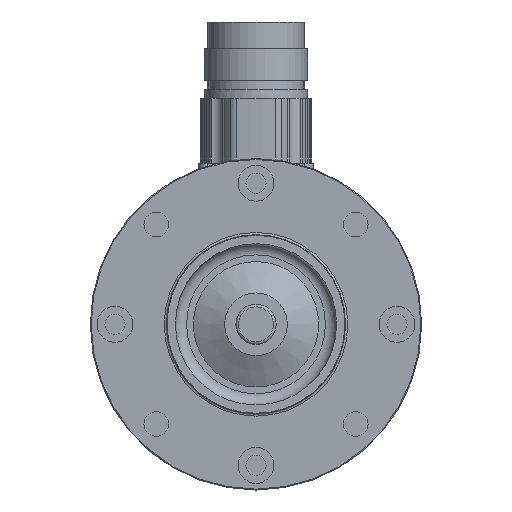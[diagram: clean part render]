
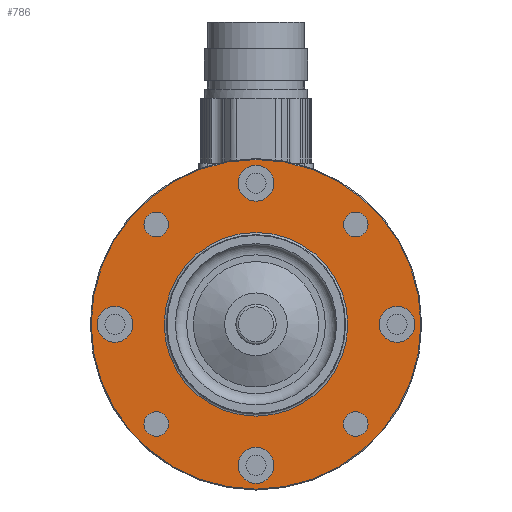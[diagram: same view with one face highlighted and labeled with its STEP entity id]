
A CAD part, front view. The second image highlights one B-rep face of the part: STEP entity #786.
In plain terms, the highlighted planar face has unit normal (0, -1, 0).
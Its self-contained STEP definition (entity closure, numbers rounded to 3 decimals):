
#361=PLANE('',#4778);
#463=FACE_BOUND('',#1474,.T.);
#464=FACE_BOUND('',#1475,.T.);
#465=FACE_BOUND('',#1476,.T.);
#466=FACE_BOUND('',#1477,.T.);
#467=FACE_BOUND('',#1478,.T.);
#468=FACE_BOUND('',#1479,.T.);
#469=FACE_BOUND('',#1480,.T.);
#470=FACE_BOUND('',#1481,.T.);
#471=FACE_BOUND('',#1483,.T.);
#786=ADVANCED_FACE('',(#463,#464,#465,#466,#467,#468,#469,#470,#1258,#471),
#361,.T.);
#1258=FACE_OUTER_BOUND('',#1482,.T.);
#1474=EDGE_LOOP('',(#2403));
#1475=EDGE_LOOP('',(#2404));
#1476=EDGE_LOOP('',(#2405));
#1477=EDGE_LOOP('',(#2406));
#1478=EDGE_LOOP('',(#2407));
#1479=EDGE_LOOP('',(#2408));
#1480=EDGE_LOOP('',(#2409));
#1481=EDGE_LOOP('',(#2410));
#1482=EDGE_LOOP('',(#2411));
#1483=EDGE_LOOP('',(#2412));
#2013=CIRCLE('',#4768,4.);
#2014=CIRCLE('',#4769,4.);
#2015=CIRCLE('',#4770,4.);
#2016=CIRCLE('',#4771,4.);
#2017=CIRCLE('',#4772,2.75);
#2018=CIRCLE('',#4773,2.75);
#2019=CIRCLE('',#4774,2.75);
#2020=CIRCLE('',#4775,2.75);
#2021=CIRCLE('',#4776,36.8);
#2022=CIRCLE('',#4777,20.5);
#2403=ORIENTED_EDGE('',*,*,#3905,.T.);
#2404=ORIENTED_EDGE('',*,*,#3906,.T.);
#2405=ORIENTED_EDGE('',*,*,#3907,.T.);
#2406=ORIENTED_EDGE('',*,*,#3908,.T.);
#2407=ORIENTED_EDGE('',*,*,#3909,.T.);
#2408=ORIENTED_EDGE('',*,*,#3910,.T.);
#2409=ORIENTED_EDGE('',*,*,#3911,.T.);
#2410=ORIENTED_EDGE('',*,*,#3912,.T.);
#2411=ORIENTED_EDGE('',*,*,#3913,.T.);
#2412=ORIENTED_EDGE('',*,*,#3914,.T.);
#3475=VERTEX_POINT('',#7057);
#3476=VERTEX_POINT('',#7059);
#3477=VERTEX_POINT('',#7061);
#3478=VERTEX_POINT('',#7063);
#3479=VERTEX_POINT('',#7065);
#3480=VERTEX_POINT('',#7067);
#3481=VERTEX_POINT('',#7069);
#3482=VERTEX_POINT('',#7071);
#3483=VERTEX_POINT('',#7073);
#3484=VERTEX_POINT('',#7075);
#3905=EDGE_CURVE('',#3475,#3475,#2013,.T.);
#3906=EDGE_CURVE('',#3476,#3476,#2014,.T.);
#3907=EDGE_CURVE('',#3477,#3477,#2015,.T.);
#3908=EDGE_CURVE('',#3478,#3478,#2016,.T.);
#3909=EDGE_CURVE('',#3479,#3479,#2017,.T.);
#3910=EDGE_CURVE('',#3480,#3480,#2018,.T.);
#3911=EDGE_CURVE('',#3481,#3481,#2019,.T.);
#3912=EDGE_CURVE('',#3482,#3482,#2020,.T.);
#3913=EDGE_CURVE('',#3483,#3483,#2021,.T.);
#3914=EDGE_CURVE('',#3484,#3484,#2022,.T.);
#4768=AXIS2_PLACEMENT_3D('',#7056,#5499,#5500);
#4769=AXIS2_PLACEMENT_3D('',#7058,#5501,#5502);
#4770=AXIS2_PLACEMENT_3D('',#7060,#5503,#5504);
#4771=AXIS2_PLACEMENT_3D('',#7062,#5505,#5506);
#4772=AXIS2_PLACEMENT_3D('',#7064,#5507,#5508);
#4773=AXIS2_PLACEMENT_3D('',#7066,#5509,#5510);
#4774=AXIS2_PLACEMENT_3D('',#7068,#5511,#5512);
#4775=AXIS2_PLACEMENT_3D('',#7070,#5513,#5514);
#4776=AXIS2_PLACEMENT_3D('',#7072,#5515,#5516);
#4777=AXIS2_PLACEMENT_3D('',#7074,#5517,#5518);
#4778=AXIS2_PLACEMENT_3D('',#7076,#5519,#5520);
#5499=DIRECTION('',(0.,1.,0.));
#5500=DIRECTION('',(-1.,0.,0.));
#5501=DIRECTION('',(0.,1.,0.));
#5502=DIRECTION('',(0.,0.,-1.));
#5503=DIRECTION('',(0.,1.,0.));
#5504=DIRECTION('',(1.,0.,0.));
#5505=DIRECTION('',(0.,1.,0.));
#5506=DIRECTION('',(0.,0.,1.));
#5507=DIRECTION('',(0.,1.,0.));
#5508=DIRECTION('',(-1.,0.,0.));
#5509=DIRECTION('',(0.,1.,0.));
#5510=DIRECTION('',(0.,0.,-1.));
#5511=DIRECTION('',(0.,1.,0.));
#5512=DIRECTION('',(1.,0.,0.));
#5513=DIRECTION('',(0.,1.,0.));
#5514=DIRECTION('',(0.,0.,1.));
#5515=DIRECTION('',(0.,-1.,0.));
#5516=DIRECTION('',(0.,0.,-1.));
#5517=DIRECTION('',(0.,1.,0.));
#5518=DIRECTION('',(0.,0.,-1.));
#5519=DIRECTION('',(0.,-1.,0.));
#5520=DIRECTION('',(0.,0.,-1.));
#7056=CARTESIAN_POINT('',(-31.5,0.,0.));
#7057=CARTESIAN_POINT('',(-35.5,0.,0.));
#7058=CARTESIAN_POINT('',(0.,0.,-31.5));
#7059=CARTESIAN_POINT('',(0.,0.,-35.5));
#7060=CARTESIAN_POINT('',(31.5,0.,0.));
#7061=CARTESIAN_POINT('',(35.5,0.,0.));
#7062=CARTESIAN_POINT('',(0.,0.,31.5));
#7063=CARTESIAN_POINT('',(0.,0.,35.5));
#7064=CARTESIAN_POINT('',(-22.274,0.,-22.274));
#7065=CARTESIAN_POINT('',(-25.024,0.,-22.274));
#7066=CARTESIAN_POINT('',(22.274,0.,-22.274));
#7067=CARTESIAN_POINT('',(22.274,0.,-25.024));
#7068=CARTESIAN_POINT('',(22.274,0.,22.274));
#7069=CARTESIAN_POINT('',(25.024,0.,22.274));
#7070=CARTESIAN_POINT('',(-22.274,0.,22.274));
#7071=CARTESIAN_POINT('',(-22.274,0.,25.024));
#7072=CARTESIAN_POINT('',(0.,0.,0.));
#7073=CARTESIAN_POINT('',(0.,0.,-36.8));
#7074=CARTESIAN_POINT('',(0.,0.,0.));
#7075=CARTESIAN_POINT('',(0.,0.,-20.5));
#7076=CARTESIAN_POINT('',(0.,0.,0.));
